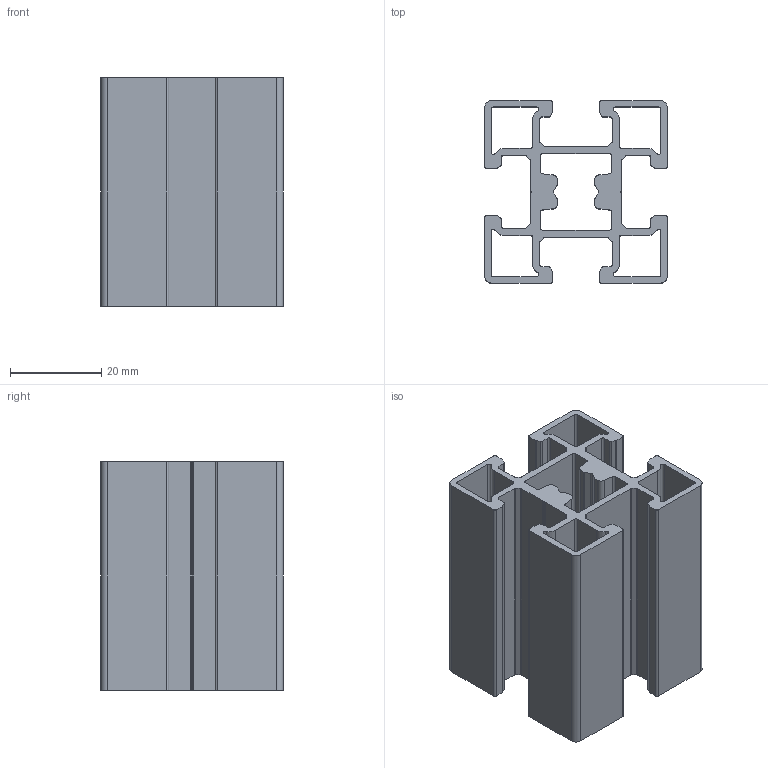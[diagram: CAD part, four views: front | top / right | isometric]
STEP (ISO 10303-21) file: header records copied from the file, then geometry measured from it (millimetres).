
FILE_DESCRIPTION(('STEP AP214'),'1');
FILE_NAME('F44F-.stp','2017-07-14T08:28:49',(' '),(' '),'Spatial InterOp 3D',' ',' ');
FILE_SCHEMA(('automotive_design'));
Length unit declared in the file: millimetre
Products named in the file (1): F44F-
Bounding box: 40 x 40 x 50 mm (x, y, z)
Volume: 24468.9 mm3; surface area: 26175 mm2
Topology: 1 solids, 1 shells, 194 faces, 576 edges, 384 vertices
Faces by surface type: cylinder 100, plane 94
Entity records: 8148 total; most frequent: DIRECTION 1166, CARTESIAN_POINT 1155, ORIENTED_EDGE 1152, EDGE_CURVE 576, AXIS2_PLACEMENT_3D 395, VERTEX_POINT 384, LINE 376, VECTOR 376
